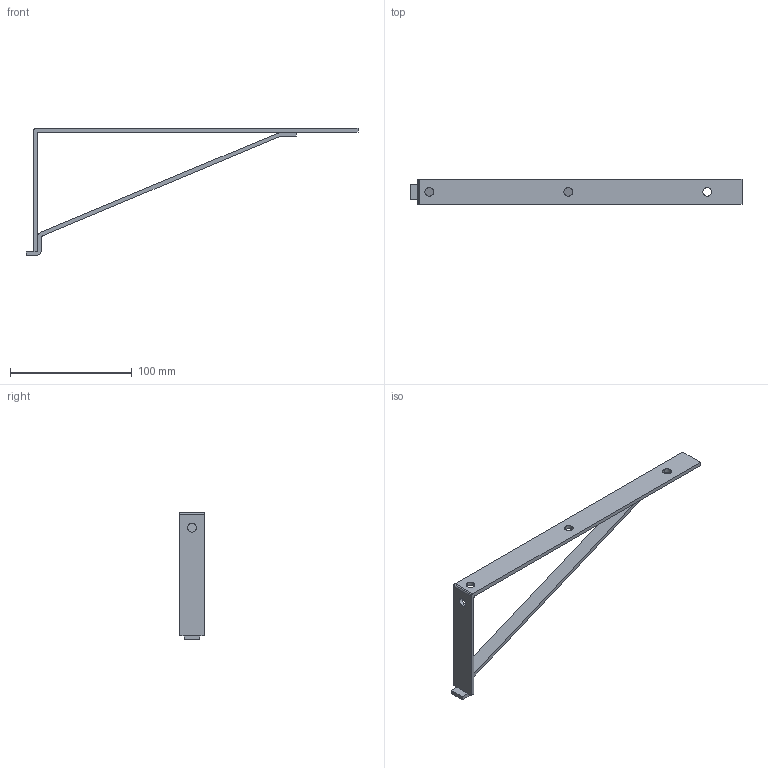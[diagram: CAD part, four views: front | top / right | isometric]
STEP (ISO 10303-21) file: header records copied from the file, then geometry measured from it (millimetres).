
FILE_DESCRIPTION(('TurboCAD Mac Pro'),'Build 980');
FILE_NAME('P6129.stp',' ',(''),(''),'ACIS Interop','IMSI','TurboCAD Mac Pro BY IMSI, INCORPORATED');
FILE_SCHEMA(('automotive_design'));
Length unit declared in the file: inch
Products named in the file (1): 1
Bounding box: 273.05 x 20.64 x 104.78 mm (x, y, z)
Volume: 33635.7 mm3; surface area: 24853.2 mm2
Topology: 1 solids, 1 shells, 43 faces, 124 edges, 82 vertices
Faces by surface type: plane 19, bspline 19, cylinder 5
Entity records: 1894 total; most frequent: CARTESIAN_POINT 497, ORIENTED_EDGE 248, DIRECTION 146, EDGE_CURVE 124, VERTEX_POINT 82, LINE 76, VECTOR 76, EDGE_LOOP 52
